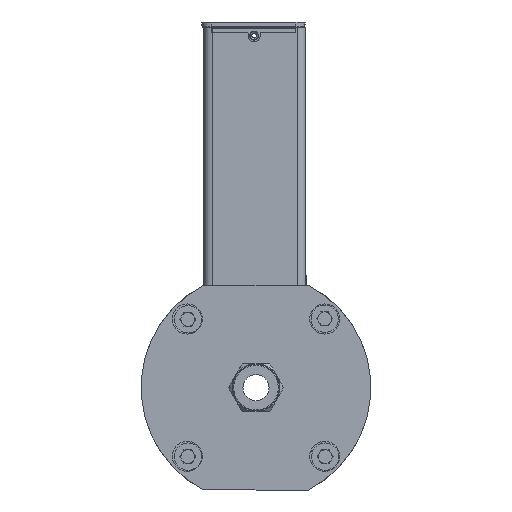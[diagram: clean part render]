
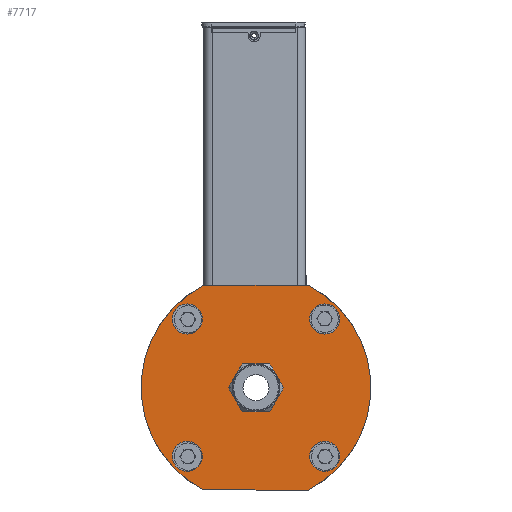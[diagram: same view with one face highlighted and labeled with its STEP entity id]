
A CAD part, front view. The second image highlights one B-rep face of the part: STEP entity #7717.
In plain terms, the highlighted planar face has unit normal (0, -1, 0).
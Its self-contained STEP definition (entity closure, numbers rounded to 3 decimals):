
#120 = ORIENTED_EDGE ( 'NONE', *, *, #13707, .T. ) ;
#308 = CIRCLE ( 'NONE', #12671, 5.5 ) ;
#458 = DIRECTION ( 'NONE',  ( 0., 1., 0. ) ) ;
#494 = ORIENTED_EDGE ( 'NONE', *, *, #14083, .T. ) ;
#912 = DIRECTION ( 'NONE',  ( 0., 0., -1. ) ) ;
#1076 = DIRECTION ( 'NONE',  ( 0., 0., -1. ) ) ;
#1085 = AXIS2_PLACEMENT_3D ( 'NONE', #8171, #20393, #9920 ) ;
#1087 = LINE ( 'NONE', #11142, #14412 ) ;
#1349 = VERTEX_POINT ( 'NONE', #13748 ) ;
#1456 = EDGE_CURVE ( 'NONE', #11510, #22064, #14949, .T. ) ;
#1808 = EDGE_CURVE ( 'NONE', #1349, #11153, #4844, .T. ) ;
#1958 = CARTESIAN_POINT ( 'NONE',  ( 25.102, -17.5, -30.602 ) ) ;
#2108 = CARTESIAN_POINT ( 'NONE',  ( 0., -17.5, 0. ) ) ;
#2361 = EDGE_CURVE ( 'NONE', #18901, #11551, #4278, .T. ) ;
#2412 = EDGE_CURVE ( 'NONE', #21141, #4109, #21779, .T. ) ;
#2572 = EDGE_LOOP ( 'NONE', ( #6268, #11576 ) ) ;
#2701 = EDGE_CURVE ( 'NONE', #15624, #8223, #7541, .T. ) ;
#2820 = EDGE_CURVE ( 'NONE', #16371, #17346, #13525, .T. ) ;
#2993 = AXIS2_PLACEMENT_3D ( 'NONE', #15741, #5268, #17517 ) ;
#3106 = DIRECTION ( 'NONE',  ( 0., 1., 0. ) ) ;
#3327 = CARTESIAN_POINT ( 'NONE',  ( -25.102, -17.5, -25.102 ) ) ;
#3479 = DIRECTION ( 'NONE',  ( 0., -1., 0. ) ) ;
#3791 = CARTESIAN_POINT ( 'NONE',  ( 0., -17.5, 7.825 ) ) ;
#3827 = CARTESIAN_POINT ( 'NONE',  ( 0., -17.5, 0. ) ) ;
#3849 = DIRECTION ( 'NONE',  ( 0., 0., 1. ) ) ;
#4109 = VERTEX_POINT ( 'NONE', #7850 ) ;
#4278 = CIRCLE ( 'NONE', #15213, 5.5 ) ;
#4304 = FACE_BOUND ( 'NONE', #21028, .T. ) ;
#4361 = CARTESIAN_POINT ( 'NONE',  ( 25.102, -17.5, 30.602 ) ) ;
#4750 = CARTESIAN_POINT ( 'NONE',  ( 0., -17.5, 0. ) ) ;
#4844 = CIRCLE ( 'NONE', #6726, 5.5 ) ;
#4944 = AXIS2_PLACEMENT_3D ( 'NONE', #13538, #3106, #15291 ) ;
#5058 = DIRECTION ( 'NONE',  ( 0., 0., -1. ) ) ;
#5070 = CIRCLE ( 'NONE', #4944, 5.5 ) ;
#5268 = DIRECTION ( 'NONE',  ( 0., 1., 0. ) ) ;
#5553 = DIRECTION ( 'NONE',  ( 0., 0., 1. ) ) ;
#5567 = EDGE_CURVE ( 'NONE', #7333, #15712, #19135, .T. ) ;
#5716 = CARTESIAN_POINT ( 'NONE',  ( -19.111, -17.5, 37.4 ) ) ;
#6070 = ORIENTED_EDGE ( 'NONE', *, *, #6557, .T. ) ;
#6268 = ORIENTED_EDGE ( 'NONE', *, *, #5567, .T. ) ;
#6395 = AXIS2_PLACEMENT_3D ( 'NONE', #18864, #8379, #20610 ) ;
#6505 = DIRECTION ( 'NONE',  ( 0., 0., 1. ) ) ;
#6557 = EDGE_CURVE ( 'NONE', #8223, #21141, #1087, .T. ) ;
#6726 = AXIS2_PLACEMENT_3D ( 'NONE', #19237, #8758, #20997 ) ;
#7089 = EDGE_LOOP ( 'NONE', ( #13454, #13863 ) ) ;
#7333 = VERTEX_POINT ( 'NONE', #3791 ) ;
#7524 = EDGE_LOOP ( 'NONE', ( #13798, #11236 ) ) ;
#7541 = CIRCLE ( 'NONE', #18640, 42. ) ;
#7549 = AXIS2_PLACEMENT_3D ( 'NONE', #2108, #14271, #3849 ) ;
#7717 = ADVANCED_FACE ( 'NONE', ( #14116, #13574, #8955, #4304, #17707, #13036 ), #17097, .T. ) ;
#7850 = CARTESIAN_POINT ( 'NONE',  ( -19.111, -17.5, -37.4 ) ) ;
#8171 = CARTESIAN_POINT ( 'NONE',  ( 25.102, -17.5, -25.102 ) ) ;
#8223 = VERTEX_POINT ( 'NONE', #18535 ) ;
#8379 = DIRECTION ( 'NONE',  ( 0., -1., 0. ) ) ;
#8532 = CARTESIAN_POINT ( 'NONE',  ( -25.102, -17.5, -19.602 ) ) ;
#8680 = CIRCLE ( 'NONE', #12551, 5.5 ) ;
#8758 = DIRECTION ( 'NONE',  ( 0., 1., 0. ) ) ;
#8955 = FACE_BOUND ( 'NONE', #20436, .T. ) ;
#8996 = CARTESIAN_POINT ( 'NONE',  ( 19.111, -17.5, -37.4 ) ) ;
#9059 = CIRCLE ( 'NONE', #1085, 5.5 ) ;
#9890 = EDGE_LOOP ( 'NONE', ( #6070, #21615, #120, #16555 ) ) ;
#9920 = DIRECTION ( 'NONE',  ( 0., 0., -1. ) ) ;
#10138 = DIRECTION ( 'NONE',  ( 1., 0., 0. ) ) ;
#10880 = CARTESIAN_POINT ( 'NONE',  ( 25.102, -17.5, 25.102 ) ) ;
#11142 = CARTESIAN_POINT ( 'NONE',  ( 0., -17.5, 37.4 ) ) ;
#11153 = VERTEX_POINT ( 'NONE', #20417 ) ;
#11236 = ORIENTED_EDGE ( 'NONE', *, *, #22283, .T. ) ;
#11341 = DIRECTION ( 'NONE',  ( 0., 1., 0. ) ) ;
#11503 = DIRECTION ( 'NONE',  ( 0., 1., 0. ) ) ;
#11510 = VERTEX_POINT ( 'NONE', #21120 ) ;
#11551 = VERTEX_POINT ( 'NONE', #19385 ) ;
#11576 = ORIENTED_EDGE ( 'NONE', *, *, #22592, .T. ) ;
#11752 = CARTESIAN_POINT ( 'NONE',  ( 0., -17.5, -37.4 ) ) ;
#11782 = CIRCLE ( 'NONE', #20951, 7.825 ) ;
#12184 = ORIENTED_EDGE ( 'NONE', *, *, #13057, .T. ) ;
#12551 = AXIS2_PLACEMENT_3D ( 'NONE', #21810, #11341, #912 ) ;
#12615 = DIRECTION ( 'NONE',  ( 0., 0., -1. ) ) ;
#12671 = AXIS2_PLACEMENT_3D ( 'NONE', #21967, #11503, #1076 ) ;
#12867 = DIRECTION ( 'NONE',  ( -1., 0., 0. ) ) ;
#13036 = FACE_BOUND ( 'NONE', #7089, .T. ) ;
#13057 = EDGE_CURVE ( 'NONE', #22064, #11510, #308, .T. ) ;
#13454 = ORIENTED_EDGE ( 'NONE', *, *, #15004, .T. ) ;
#13525 = CIRCLE ( 'NONE', #2993, 5.5 ) ;
#13538 = CARTESIAN_POINT ( 'NONE',  ( -25.102, -17.5, -25.102 ) ) ;
#13574 = FACE_BOUND ( 'NONE', #2572, .T. ) ;
#13707 = EDGE_CURVE ( 'NONE', #4109, #15624, #22366, .T. ) ;
#13748 = CARTESIAN_POINT ( 'NONE',  ( -25.102, -17.5, 30.602 ) ) ;
#13798 = ORIENTED_EDGE ( 'NONE', *, *, #2820, .T. ) ;
#13863 = ORIENTED_EDGE ( 'NONE', *, *, #2361, .T. ) ;
#13909 = CARTESIAN_POINT ( 'NONE',  ( 0., -17.5, 0. ) ) ;
#14083 = EDGE_CURVE ( 'NONE', #11153, #1349, #8680, .T. ) ;
#14116 = FACE_OUTER_BOUND ( 'NONE', #9890, .T. ) ;
#14271 = DIRECTION ( 'NONE',  ( 0., 1., 0. ) ) ;
#14412 = VECTOR ( 'NONE', #12867, 1000. ) ;
#14949 = CIRCLE ( 'NONE', #20495, 5.5 ) ;
#15004 = EDGE_CURVE ( 'NONE', #11551, #18901, #5070, .T. ) ;
#15213 = AXIS2_PLACEMENT_3D ( 'NONE', #3327, #15515, #5058 ) ;
#15291 = DIRECTION ( 'NONE',  ( 0., 0., -1. ) ) ;
#15310 = ORIENTED_EDGE ( 'NONE', *, *, #1808, .T. ) ;
#15515 = DIRECTION ( 'NONE',  ( 0., 1., 0. ) ) ;
#15624 = VERTEX_POINT ( 'NONE', #8996 ) ;
#15666 = DIRECTION ( 'NONE',  ( 0., 0., 1. ) ) ;
#15712 = VERTEX_POINT ( 'NONE', #16306 ) ;
#15741 = CARTESIAN_POINT ( 'NONE',  ( 25.102, -17.5, -25.102 ) ) ;
#16021 = DIRECTION ( 'NONE',  ( 0., 1., 0. ) ) ;
#16306 = CARTESIAN_POINT ( 'NONE',  ( 0., -17.5, -7.825 ) ) ;
#16371 = VERTEX_POINT ( 'NONE', #1958 ) ;
#16555 = ORIENTED_EDGE ( 'NONE', *, *, #2701, .T. ) ;
#16981 = DIRECTION ( 'NONE',  ( 0., -1., 0. ) ) ;
#17097 = PLANE ( 'NONE',  #6395 ) ;
#17182 = ORIENTED_EDGE ( 'NONE', *, *, #1456, .T. ) ;
#17346 = VERTEX_POINT ( 'NONE', #22504 ) ;
#17517 = DIRECTION ( 'NONE',  ( 0., 0., -1. ) ) ;
#17707 = FACE_BOUND ( 'NONE', #7524, .T. ) ;
#17715 = VECTOR ( 'NONE', #10138, 1000. ) ;
#18535 = CARTESIAN_POINT ( 'NONE',  ( 19.111, -17.5, 37.4 ) ) ;
#18640 = AXIS2_PLACEMENT_3D ( 'NONE', #4750, #16981, #6505 ) ;
#18864 = CARTESIAN_POINT ( 'NONE',  ( 0., -17.5, 0. ) ) ;
#18901 = VERTEX_POINT ( 'NONE', #8532 ) ;
#19135 = CIRCLE ( 'NONE', #7549, 7.825 ) ;
#19237 = CARTESIAN_POINT ( 'NONE',  ( -25.102, -17.5, 25.102 ) ) ;
#19385 = CARTESIAN_POINT ( 'NONE',  ( -25.102, -17.5, -30.602 ) ) ;
#20393 = DIRECTION ( 'NONE',  ( 0., 1., 0. ) ) ;
#20417 = CARTESIAN_POINT ( 'NONE',  ( -25.102, -17.5, 19.602 ) ) ;
#20436 = EDGE_LOOP ( 'NONE', ( #17182, #12184 ) ) ;
#20495 = AXIS2_PLACEMENT_3D ( 'NONE', #10880, #458, #12615 ) ;
#20610 = DIRECTION ( 'NONE',  ( 0., 0., 1. ) ) ;
#20951 = AXIS2_PLACEMENT_3D ( 'NONE', #3827, #16021, #5553 ) ;
#20997 = DIRECTION ( 'NONE',  ( 0., 0., -1. ) ) ;
#21028 = EDGE_LOOP ( 'NONE', ( #494, #15310 ) ) ;
#21120 = CARTESIAN_POINT ( 'NONE',  ( 25.102, -17.5, 19.602 ) ) ;
#21141 = VERTEX_POINT ( 'NONE', #5716 ) ;
#21615 = ORIENTED_EDGE ( 'NONE', *, *, #2412, .T. ) ;
#21779 = CIRCLE ( 'NONE', #22598, 42. ) ;
#21810 = CARTESIAN_POINT ( 'NONE',  ( -25.102, -17.5, 25.102 ) ) ;
#21967 = CARTESIAN_POINT ( 'NONE',  ( 25.102, -17.5, 25.102 ) ) ;
#22064 = VERTEX_POINT ( 'NONE', #4361 ) ;
#22283 = EDGE_CURVE ( 'NONE', #17346, #16371, #9059, .T. ) ;
#22366 = LINE ( 'NONE', #11752, #17715 ) ;
#22504 = CARTESIAN_POINT ( 'NONE',  ( 25.102, -17.5, -19.602 ) ) ;
#22592 = EDGE_CURVE ( 'NONE', #15712, #7333, #11782, .T. ) ;
#22598 = AXIS2_PLACEMENT_3D ( 'NONE', #13909, #3479, #15666 ) ;
